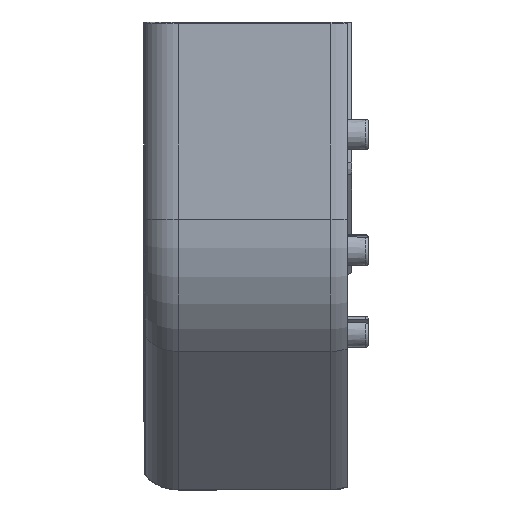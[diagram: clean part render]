
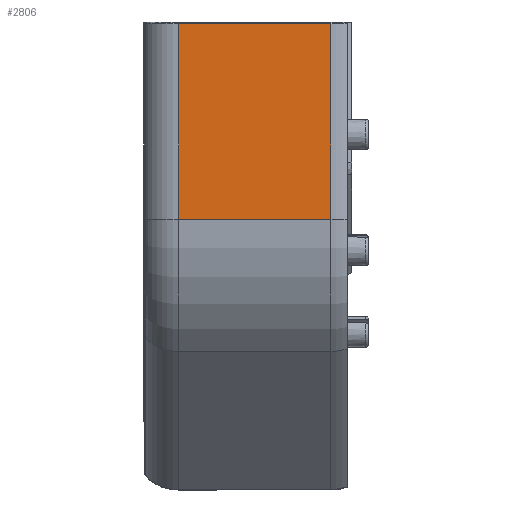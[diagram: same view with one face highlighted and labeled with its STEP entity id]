
A CAD part, left-side view. The second image highlights one B-rep face of the part: STEP entity #2806.
In plain terms, the highlighted planar face has unit normal (-1, 0, 0).
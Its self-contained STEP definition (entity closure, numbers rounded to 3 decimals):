
#4 = DIRECTION ( 'NONE',  ( 0., 0., -1. ) ) ;
#59 = VECTOR ( 'NONE', #1841, 1000. ) ;
#102 = EDGE_CURVE ( 'NONE', #1927, #2398, #2926, .T. ) ;
#223 = CARTESIAN_POINT ( 'NONE',  ( -12.5, 10.94, 4.85 ) ) ;
#456 = FACE_OUTER_BOUND ( 'NONE', #5738, .T. ) ;
#510 = CARTESIAN_POINT ( 'NONE',  ( -12.5, 10.94, -10.79 ) ) ;
#722 = VERTEX_POINT ( 'NONE', #510 ) ;
#868 = CARTESIAN_POINT ( 'NONE',  ( -12.5, -1.25, -10.79 ) ) ;
#953 = CARTESIAN_POINT ( 'NONE',  ( -12.5, 10.94, 0. ) ) ;
#1106 = ORIENTED_EDGE ( 'NONE', *, *, #5574, .T. ) ;
#1391 = CARTESIAN_POINT ( 'NONE',  ( -12.5, 10.94, 4.85 ) ) ;
#1445 = EDGE_CURVE ( 'NONE', #1927, #3998, #1587, .T. ) ;
#1587 = LINE ( 'NONE', #1391, #3175 ) ;
#1617 = ORIENTED_EDGE ( 'NONE', *, *, #3105, .F. ) ;
#1841 = DIRECTION ( 'NONE',  ( 0., 0., -1. ) ) ;
#1927 = VERTEX_POINT ( 'NONE', #3304 ) ;
#1947 = AXIS2_PLACEMENT_3D ( 'NONE', #3470, #3927, #5382 ) ;
#2081 = PLANE ( 'NONE',  #1947 ) ;
#2183 = VECTOR ( 'NONE', #4, 1000. ) ;
#2341 = CARTESIAN_POINT ( 'NONE',  ( -12.5, -1.25, 0. ) ) ;
#2398 = VERTEX_POINT ( 'NONE', #868 ) ;
#2464 = CARTESIAN_POINT ( 'NONE',  ( -12.5, -2.94, -10.79 ) ) ;
#2485 = DIRECTION ( 'NONE',  ( 0., 1., 0. ) ) ;
#2806 = ADVANCED_FACE ( 'NONE', ( #456 ), #2081, .F. ) ;
#2926 = LINE ( 'NONE', #2341, #59 ) ;
#3105 = EDGE_CURVE ( 'NONE', #2398, #722, #3251, .T. ) ;
#3175 = VECTOR ( 'NONE', #3745, 1000. ) ;
#3251 = LINE ( 'NONE', #2464, #3565 ) ;
#3304 = CARTESIAN_POINT ( 'NONE',  ( -12.5, -1.25, 4.85 ) ) ;
#3470 = CARTESIAN_POINT ( 'NONE',  ( -12.5, -1.25, 0. ) ) ;
#3565 = VECTOR ( 'NONE', #2485, 1000. ) ;
#3597 = ORIENTED_EDGE ( 'NONE', *, *, #1445, .T. ) ;
#3745 = DIRECTION ( 'NONE',  ( 0., 1., 0. ) ) ;
#3927 = DIRECTION ( 'NONE',  ( 1., 0., 0. ) ) ;
#3998 = VERTEX_POINT ( 'NONE', #223 ) ;
#4184 = ORIENTED_EDGE ( 'NONE', *, *, #102, .F. ) ;
#4975 = LINE ( 'NONE', #953, #2183 ) ;
#5382 = DIRECTION ( 'NONE',  ( 0., 1., 0. ) ) ;
#5574 = EDGE_CURVE ( 'NONE', #3998, #722, #4975, .T. ) ;
#5738 = EDGE_LOOP ( 'NONE', ( #4184, #3597, #1106, #1617 ) ) ;
